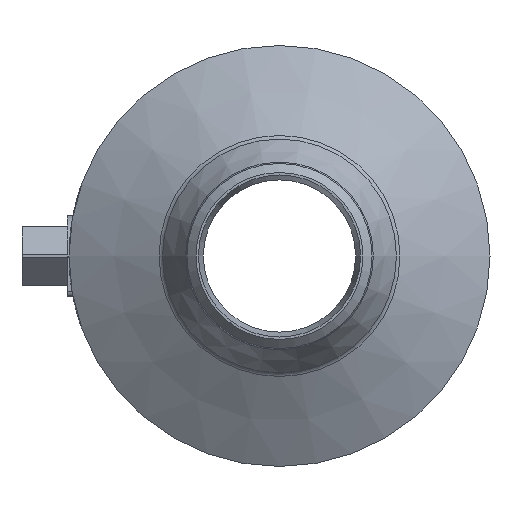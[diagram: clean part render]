
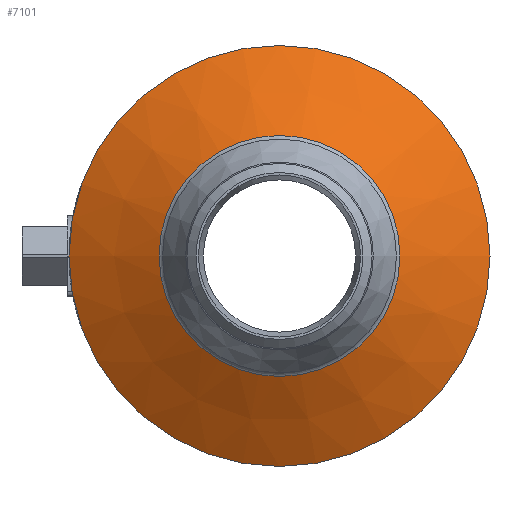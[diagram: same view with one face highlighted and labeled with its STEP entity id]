
A CAD part, left-side view. The second image highlights one B-rep face of the part: STEP entity #7101.
In plain terms, the highlighted conical face has half-angle 60 degrees and reference radius 102.196 mm.
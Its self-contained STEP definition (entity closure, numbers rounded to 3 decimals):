
#7067=CARTESIAN_POINT('',(-72.105,-74.392,0.0));
#7068=VERTEX_POINT('',#7067);
#7069=CARTESIAN_POINT('',(-72.105,0.0,0.0));
#7070=DIRECTION('',(1.0,0.0,0.0));
#7071=DIRECTION('',(0.0,-1.0,0.0));
#7072=AXIS2_PLACEMENT_3D('',#7069,#7070,#7071);
#7073=CIRCLE('',#7072,74.392);
#7074=EDGE_CURVE('',#7068,#7068,#7073,.T.);
#7082=CARTESIAN_POINT('',(-56.053,0.0,0.0));
#7083=DIRECTION('',(1.0,0.0,0.0));
#7084=DIRECTION('',(0.0,-1.0,0.0));
#7085=AXIS2_PLACEMENT_3D('',#7082,#7083,#7084);
#7086=CONICAL_SURFACE('',#7085,102.196,60.);
#7087=CARTESIAN_POINT('',(-40.0,-130.0,0.0));
#7088=VERTEX_POINT('',#7087);
#7089=CARTESIAN_POINT('',(-40.0,0.0,0.0));
#7090=DIRECTION('',(1.0,0.0,0.0));
#7091=DIRECTION('',(0.0,-1.0,0.0));
#7092=AXIS2_PLACEMENT_3D('',#7089,#7090,#7091);
#7093=CIRCLE('',#7092,130.0);
#7094=EDGE_CURVE('',#7088,#7088,#7093,.T.);
#7095=ORIENTED_EDGE('',*,*,#7094,.F.);
#7096=EDGE_LOOP('',(#7095));
#7097=FACE_OUTER_BOUND('',#7096,.T.);
#7098=ORIENTED_EDGE('',*,*,#7074,.T.);
#7099=EDGE_LOOP('',(#7098));
#7100=FACE_BOUND('',#7099,.T.);
#7101=ADVANCED_FACE('',(#7097,#7100),#7086,.T.);
